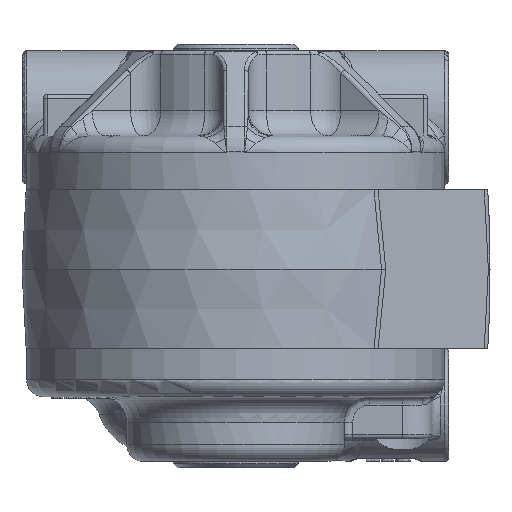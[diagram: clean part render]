
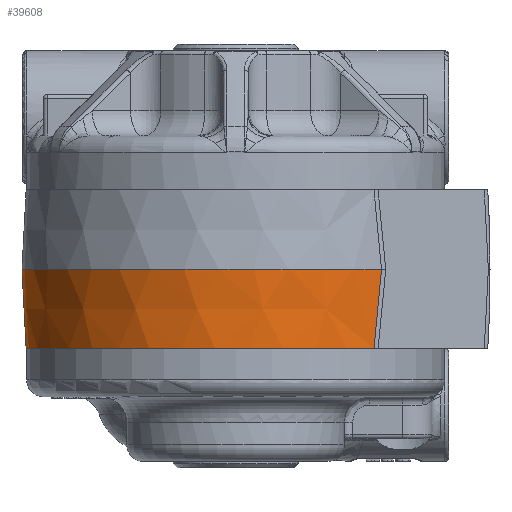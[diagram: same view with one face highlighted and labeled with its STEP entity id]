
A CAD part, front view. The second image highlights one B-rep face of the part: STEP entity #39608.
In plain terms, the highlighted conical face has half-angle 3 degrees and reference radius 81.28 mm.
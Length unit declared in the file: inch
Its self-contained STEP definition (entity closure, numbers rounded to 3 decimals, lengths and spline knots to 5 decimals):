
#38891=CARTESIAN_POINT('',(2.07198,-2.35637,-1.1875));
#38892=VERTEX_POINT('',#38891);
#38903=CARTESIAN_POINT('',(-3.09388,0.52296,-1.1875));
#38904=VERTEX_POINT('',#38903);
#38905=CARTESIAN_POINT('',(0.0,0.0,-1.1875));
#38906=DIRECTION('',(0.0,0.0,-1.0));
#38907=DIRECTION('',(-0.986,0.167,0.0));
#38908=AXIS2_PLACEMENT_3D('',#38905,#38906,#38907);
#38909=CIRCLE('',#38908,3.13777);
#38910=EDGE_CURVE('',#38892,#38904,#38909,.T.);
#39565=CARTESIAN_POINT('',(-3.15524,0.53333,0.0));
#39566=VERTEX_POINT('',#39565);
#39567=CARTESIAN_POINT('',(-3.09388,0.52296,-1.1875));
#39568=DIRECTION('',(-0.052,0.009,0.999));
#39569=VECTOR('',#39568,1.18913);
#39570=LINE('',#39567,#39569);
#39571=EDGE_CURVE('',#38904,#39566,#39570,.T.);
#39583=CARTESIAN_POINT('',(0.0,0.0,0.0));
#39584=DIRECTION('',(0.0,0.0,1.0));
#39585=DIRECTION('',(-0.986,0.167,0.0));
#39586=AXIS2_PLACEMENT_3D('',#39583,#39584,#39585);
#39587=CONICAL_SURFACE('',#39586,3.2,3.0);
#39588=ORIENTED_EDGE('',*,*,#38910,.F.);
#39589=CARTESIAN_POINT('',(2.18425,-2.3386,0.));
#39590=VERTEX_POINT('',#39589);
#39591=CARTESIAN_POINT('',(2.18425,-2.3386,0.));
#39592=CARTESIAN_POINT('',(2.14765,-2.34439,-0.39592));
#39593=CARTESIAN_POINT('',(2.11028,-2.35031,-0.79176));
#39594=CARTESIAN_POINT('',(2.07198,-2.35637,-1.1875));
#39595=B_SPLINE_CURVE_WITH_KNOTS('',3,(#39591,#39592,#39593,#39594),.UNSPECIFIED.,.F.,.U.,(4,4),(3.60348,6.63429),.UNSPECIFIED.);
#39596=EDGE_CURVE('',#39590,#38892,#39595,.T.);
#39597=ORIENTED_EDGE('',*,*,#39596,.F.);
#39598=CARTESIAN_POINT('',(0.0,0.0,0.0));
#39599=DIRECTION('',(0.0,0.0,1.0));
#39600=DIRECTION('',(-0.986,0.167,0.0));
#39601=AXIS2_PLACEMENT_3D('',#39598,#39599,#39600);
#39602=CIRCLE('',#39601,3.2);
#39603=EDGE_CURVE('',#39566,#39590,#39602,.T.);
#39604=ORIENTED_EDGE('',*,*,#39603,.F.);
#39605=ORIENTED_EDGE('',*,*,#39571,.F.);
#39606=EDGE_LOOP('',(#39588,#39597,#39604,#39605));
#39607=FACE_OUTER_BOUND('',#39606,.T.);
#39608=ADVANCED_FACE('',(#39607),#39587,.T.);
